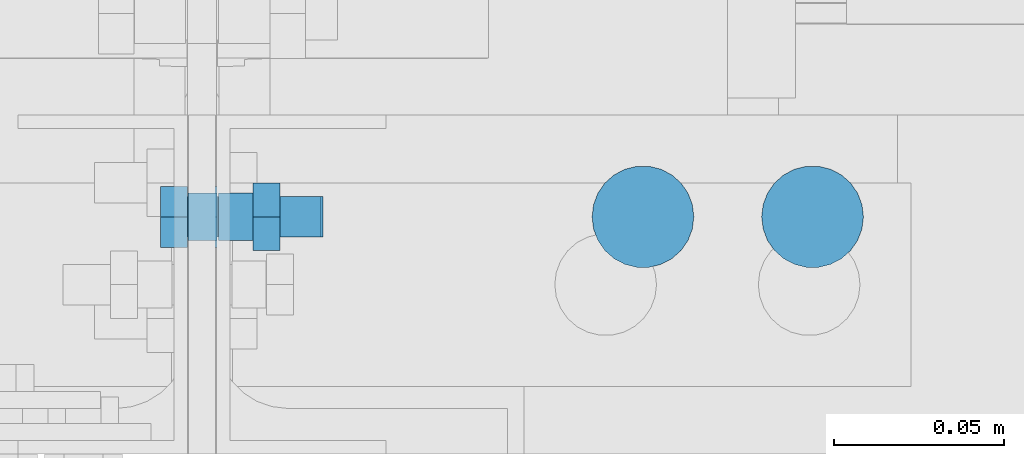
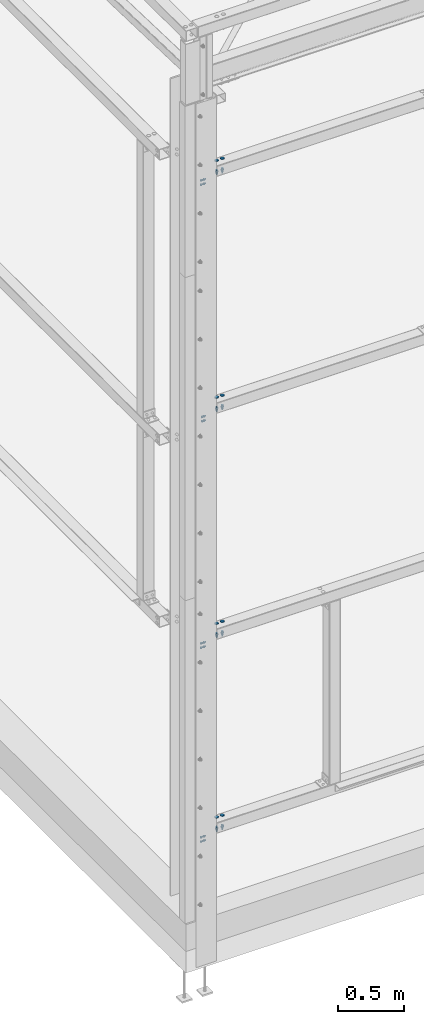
# One storey, part 203 of 362: 12 mechanical fasteners.
"""IFC2X3 building model written with IfcOpenShell, lengths in millimetres."""

from ifc_helpers import new_model, si_unit, frame, frame_2d, origin_with_axes, origin_2d_with_axis, place, context, subcontext, project, spatial, polyline, circle_curve, parameter, trimmed, segment, composite_curve, circle, outline, extrude, source, transform, mapped, material, type_object, element, save


model = new_model("IFC2X3")

# Units and contexts
model_context = context("Model", 3, precision=1e-05, world=origin_with_axes())
body_context = subcontext(model_context, "Body", "Model", "MODEL_VIEW")
ifc_project = project(units=[si_unit("LENGTHUNIT", "METRE", prefix="MILLI"), si_unit("AREAUNIT", "SQUARE_METRE"), si_unit("VOLUMEUNIT", "CUBIC_METRE"), si_unit("MASSUNIT", "GRAM", prefix="KILO"), si_unit("TIMEUNIT", "SECOND"), si_unit("PLANEANGLEUNIT", "RADIAN"), si_unit("SOLIDANGLEUNIT", "STERADIAN"), si_unit("THERMODYNAMICTEMPERATUREUNIT", "DEGREE_CELSIUS"), si_unit("LUMINOUSINTENSITYUNIT", "LUMEN")], contexts=[model_context])

# Site, building, storey
site_placement = place(None, origin_with_axes())
site = spatial("IfcSite", under=ifc_project, at=site_placement, Name="Undefined", CompositionType="ELEMENT")
building_placement = place(site_placement, origin_with_axes())
building = spatial("IfcBuilding", under=site, at=building_placement, Name="Undefined", CompositionType="ELEMENT")
storey_placement = place(building_placement, origin_with_axes())
storey = spatial("IfcBuildingStorey", under=building, at=storey_placement, Name="Undefined", CompositionType="ELEMENT", Elevation=0.0)

# Mechanical fasteners
ifc_material_1 = material(Name="6.8")
mechanical_fastener_type = type_object("IfcMechanicalFastenerType", Name="Bolt assembly")
shared_shape_1 = source(origin_with_axes(), body_context, "Body", "SweptSolid", [
    extrude(circle(Radius=15.0, at=origin_2d_with_axis()), frame((0.0, 0.0, 0.0), z_axis=(0.0, 1.0, 0.0), x_axis=(1.0, 0.0, 0.0)), (0.0, 0.0, 1.0), 4.1),
])
for number, where, z_axis, x_axis, name in (
    (1, (180.000002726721, -110.000005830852, 1100.0), (0.0, -1.0, 0.0), (-1.0, 0.0, 0.0), "Bolt assembly"),
    (2, (180.000002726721, -110.000005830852, 2900.0), (0.0, -1.0, 0.0), (-1.0, 0.0, 0.0), "Bolt assembly"),
    (3, (180.000002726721, -110.000005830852, 5000.0), (0.0, -1.0, 0.0), (-1.0, 0.0, 0.0), "Bolt assembly"),
    (4, (180.000002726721, -110.000005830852, 7200.0), (0.0, -1.0, 0.0), (-1.0, 0.0, 0.0), "Bolt assembly"),
):
    element("IfcMechanicalFastener", number, at=place(storey_placement, frame(where, z_axis=z_axis, x_axis=x_axis)), inside=storey, type_object=mechanical_fastener_type, material=ifc_material_1, Name=name, NominalDiameter=30.0, NominalLength=4.0, context=body_context, shape_type="MappedRepresentation", body=[
        mapped(shared_shape_1, transform((0.0, 0.0, 0.0))),
        mapped(shared_shape_1, transform((49.9999999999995, 0.0, -3.63797880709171e-12))),
    ])
ifc_material_2 = material(Name="8.8-SB-ZINGUE")
shared_shape_2 = source(origin_with_axes(), body_context, "Body", "SweptSolid", [
    extrude(circle(Radius=7.0, at=origin_2d_with_axis()), frame((0.0, -4.20000548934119, 0.0), z_axis=(0.0, 1.0, 0.0), x_axis=(1.0, 0.0, 0.0)), (0.0, 0.0, 1.0), 8.6),
    extrude(circle(Radius=7.0, at=origin_2d_with_axis()), frame((0.0, 4.9000000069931, 0.0), z_axis=(0.0, 1.0, 0.0), x_axis=(1.0, 0.0, 0.0)), (0.0, 0.0, 1.0), 10.1),
    extrude(outline(polyline([(10.39230484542, 0.0), (5.19615242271, 9.00000000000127), (-5.19615242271, 9.00000000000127), (-10.39230484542, 0.0), (-5.19615242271, -9.00000000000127), (5.19615242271, -9.00000000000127), (10.39230484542, 0.0)])), frame((0.0, -12.2200054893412, 0.0), z_axis=(0.0, 1.0, 0.0), x_axis=(1.0, 0.0, 0.0)), (0.0, 0.0, 1.0), 7.92),
    extrude(circle(Radius=6.0, at=origin_2d_with_axis()), frame((0.0, -4.3000001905, 0.0), z_axis=(0.0, 1.0, 0.0), x_axis=(1.0, 0.0, 0.0)), (0.0, 0.0, 1.0), 40.0),
    extrude(outline(polyline([(11.5008173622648, 0.0), (5.7504086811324, 9.96000000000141), (-5.7504086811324, 9.96000000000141), (-11.5008173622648, 0.0), (-5.7504086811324, -9.96000000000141), (5.7504086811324, -9.96000000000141), (11.5008173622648, 0.0)])), frame((0.0, 15.0000000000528, 0.0), z_axis=(0.0, 1.0, 0.0), x_axis=(1.0, 0.0, 0.0)), (0.0, 0.0, 1.0), 7.92),
])
for number, where, z_axis, x_axis, name in (
    (5, (5.29884118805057e-06, -110.000007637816, 920.0), (0.0, 1.0, 0.0), (0.0, 0.0, 1.0), "Bolt assembly"),
    (6, (5.29884118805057e-06, -110.000007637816, 2720.0), (0.0, 1.0, 0.0), (0.0, 0.0, 1.0), "Bolt assembly"),
    (7, (5.29884118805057e-06, -110.000007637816, 7020.0), (0.0, 1.0, 0.0), (0.0, 0.0, 1.0), "Bolt assembly"),
):
    element("IfcMechanicalFastener", number, at=place(storey_placement, frame(where, z_axis=z_axis, x_axis=x_axis)), inside=storey, type_object=mechanical_fastener_type, material=ifc_material_2, Name=name, NominalDiameter=12.0, NominalLength=40.0, context=body_context, shape_type="MappedRepresentation", body=[
        mapped(shared_shape_2, transform((0.0, 0.0, 0.0))),
        mapped(shared_shape_2, transform((40.0, 0.0, 0.0))),
    ])
shared_shape_3 = source(origin_with_axes(), body_context, "Body", "SweptSolid", [
    extrude(circle(Radius=7.0, at=origin_2d_with_axis()), frame((0.0, -3.89999843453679, 0.0), z_axis=(0.0, 1.0, 0.0), x_axis=(1.0, 0.0, 0.0)), (0.0, 0.0, 1.0), 4.0),
    extrude(outline(composite_curve([segment(polyline([(-7.0, 7.0), (7.0, 7.0)]), True, "CONTINUOUS"), segment(trimmed(circle_curve(frame_2d((7.0, 0.0), x_axis=(0.0, 1.0)), 7.0), [parameter(0.0)], [parameter(3.14159265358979)], False, "PARAMETER"), True, "CONTINUOUS"), segment(polyline([(7.0, -7.0), (-7.0, -7.0)]), True, "CONTINUOUS"), segment(trimmed(circle_curve(frame_2d((-7.0, 0.0), x_axis=(0.0, -1.0)), 7.0), [parameter(0.0)], [parameter(3.14159265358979)], False, "PARAMETER"), True, "DISCONTINUOUS")], self_intersect=False)), frame((0.0, -0.100011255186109, 0.0), z_axis=(0.0, 1.0, 0.0), x_axis=(1.0, 0.0, 0.0)), (0.0, 0.0, 1.0), 10.1),
    extrude(outline(polyline([(10.39230484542, 0.0), (5.19615242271, 9.00000000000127), (-5.19615242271, 9.00000000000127), (-10.39230484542, 0.0), (-5.19615242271, -9.00000000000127), (5.19615242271, -9.00000000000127), (10.39230484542, 0.0)])), frame((0.0, -11.9199984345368, 0.0), z_axis=(0.0, 1.0, 0.0), x_axis=(1.0, 0.0, 0.0)), (0.0, 0.0, 1.0), 7.92),
    extrude(circle(Radius=6.0, at=origin_2d_with_axis()), frame((0.0, -3.99999923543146, 0.0), z_axis=(0.0, 1.0, 0.0), x_axis=(1.0, 0.0, 0.0)), (0.0, 0.0, 1.0), 40.0),
    extrude(circle(Radius=10.8, at=origin_2d_with_axis()), frame((0.0, 10.0000000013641, 0.0), z_axis=(0.0, 1.0, 0.0), x_axis=(1.0, 0.0, 0.0)), (0.0, 0.0, 1.0), 3.96),
    extrude(outline(polyline([(11.5008173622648, 0.0), (5.7504086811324, 9.96000000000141), (-5.7504086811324, 9.96000000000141), (-11.5008173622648, 0.0), (-5.7504086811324, -9.96000000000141), (5.7504086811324, -9.96000000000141), (11.5008173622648, 0.0)])), frame((0.0, 13.96, 0.0), z_axis=(0.0, 1.0, 0.0), x_axis=(1.0, 0.0, 0.0)), (0.0, 0.0, 1.0), 7.92),
])
mechanical_fastener_1_placement = place(storey_placement, frame((180.000002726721, -110.000005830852, 1000.0), z_axis=(0.0, -1.0, 0.0), x_axis=(-1.0, 0.0, 0.0)))
element("IfcMechanicalFastener", 8, at=mechanical_fastener_1_placement, inside=storey, type_object=mechanical_fastener_type, material=ifc_material_2, Name="Bolt assembly", NominalDiameter=12.0, NominalLength=40.0, context=body_context, shape_type="MappedRepresentation", body=[
    mapped(shared_shape_3, transform((0.0, 0.0, 0.0))),
    mapped(shared_shape_3, transform((49.9999999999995, 0.0, -3.63797880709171e-12))),
])
shared_shape_4 = source(origin_with_axes(), body_context, "Body", "SweptSolid", [
    extrude(circle(Radius=7.0, at=origin_2d_with_axis()), frame((0.0, -3.89999843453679, 0.0), z_axis=(0.0, 1.0, 0.0), x_axis=(1.0, 0.0, 0.0)), (0.0, 0.0, 1.0), 4.0),
    extrude(outline(composite_curve([segment(polyline([(-7.0, 7.0), (7.0, 7.0)]), True, "CONTINUOUS"), segment(trimmed(circle_curve(frame_2d((7.0, 0.0), x_axis=(0.0, 1.0)), 7.0), [parameter(0.0)], [parameter(3.14159265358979)], False, "PARAMETER"), True, "CONTINUOUS"), segment(polyline([(7.0, -7.0), (-7.0, -7.0)]), True, "CONTINUOUS"), segment(trimmed(circle_curve(frame_2d((-7.0, 0.0), x_axis=(0.0, -1.0)), 7.0), [parameter(0.0)], [parameter(3.14159265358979)], False, "PARAMETER"), True, "DISCONTINUOUS")], self_intersect=False)), frame((0.0, -0.100011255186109, 0.0), z_axis=(0.0, 1.0, 0.0), x_axis=(1.0, 0.0, 0.0)), (0.0, 0.0, 1.0), 10.1),
    extrude(outline(polyline([(10.39230484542, 0.0), (5.19615242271, 9.00000000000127), (-5.19615242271, 9.00000000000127), (-10.39230484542, 0.0), (-5.19615242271, -9.00000000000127), (5.19615242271, -9.00000000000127), (10.39230484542, 0.0)])), frame((0.0, -11.9199984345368, 0.0), z_axis=(0.0, 1.0, 0.0), x_axis=(1.0, 0.0, 0.0)), (0.0, 0.0, 1.0), 7.92),
    extrude(circle(Radius=6.0, at=origin_2d_with_axis()), frame((0.0, -3.99999923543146, 0.0), z_axis=(0.0, 1.0, 0.0), x_axis=(1.0, 0.0, 0.0)), (0.0, 0.0, 1.0), 40.0),
    extrude(circle(Radius=10.8, at=origin_2d_with_axis()), frame((0.0, 10.0000000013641, 0.0), z_axis=(0.0, 1.0, 0.0), x_axis=(1.0, 0.0, 0.0)), (0.0, 0.0, 1.0), 3.96),
    extrude(outline(polyline([(11.5008173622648, 0.0), (5.7504086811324, 9.96000000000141), (-5.7504086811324, 9.96000000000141), (-11.5008173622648, 0.0), (-5.7504086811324, -9.96000000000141), (5.7504086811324, -9.96000000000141), (11.5008173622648, 0.0)])), frame((0.0, 13.96, 0.0), z_axis=(0.0, 1.0, 0.0), x_axis=(1.0, 0.0, 0.0)), (0.0, 0.0, 1.0), 7.92),
])
mechanical_fastener_2_placement = place(storey_placement, frame((180.000002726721, -110.000005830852, 2800.0), z_axis=(0.0, -1.0, 0.0), x_axis=(-1.0, 0.0, 0.0)))
element("IfcMechanicalFastener", 9, at=mechanical_fastener_2_placement, inside=storey, type_object=mechanical_fastener_type, material=ifc_material_2, Name="Bolt assembly", NominalDiameter=12.0, NominalLength=40.0, context=body_context, shape_type="MappedRepresentation", body=[
    mapped(shared_shape_4, transform((0.0, 0.0, 0.0))),
    mapped(shared_shape_4, transform((49.9999999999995, 0.0, -3.63797880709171e-12))),
])
shared_shape_5 = source(origin_with_axes(), body_context, "Body", "SweptSolid", [
    extrude(circle(Radius=7.0, at=origin_2d_with_axis()), frame((0.0, 5.0, 0.0), z_axis=(0.0, 1.0, 0.0), x_axis=(1.0, 0.0, 0.0)), (0.0, 0.0, 1.0), 10.1),
    extrude(outline(polyline([(10.39230484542, 0.0), (5.19615242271, 9.00000000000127), (-5.19615242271, 9.00000000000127), (-10.39230484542, 0.0), (-5.19615242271, -9.00000000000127), (5.19615242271, -9.00000000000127), (10.39230484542, 0.0)])), frame((0.0, -2.9200025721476, 0.0), z_axis=(0.0, 1.0, 0.0), x_axis=(1.0, 0.0, 0.0)), (0.0, 0.0, 1.0), 7.92),
    extrude(circle(Radius=6.0, at=origin_2d_with_axis()), frame((0.0, 5.0, 0.0), z_axis=(0.0, 1.0, 0.0), x_axis=(1.0, 0.0, 0.0)), (0.0, 0.0, 1.0), 30.0),
    extrude(outline(polyline([(11.5008173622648, 0.0), (5.7504086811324, 9.96000000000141), (-5.7504086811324, 9.96000000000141), (-11.5008173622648, 0.0), (-5.7504086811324, -9.96000000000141), (5.7504086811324, -9.96000000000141), (11.5008173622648, 0.0)])), frame((0.0, 15.0000000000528, 0.0), z_axis=(0.0, 1.0, 0.0), x_axis=(1.0, 0.0, 0.0)), (0.0, 0.0, 1.0), 7.92),
])
mechanical_fastener_3_placement = place(storey_placement, frame((5.29884118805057e-06, -110.000007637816, 4820.0), z_axis=(0.0, 1.0, 0.0), x_axis=(0.0, 0.0, 1.0)))
element("IfcMechanicalFastener", 10, at=mechanical_fastener_3_placement, inside=storey, type_object=mechanical_fastener_type, material=ifc_material_2, Name="Bolt assembly", NominalDiameter=12.0, NominalLength=30.0, context=body_context, shape_type="MappedRepresentation", body=[
    mapped(shared_shape_5, transform((0.0, 0.0, 0.0))),
    mapped(shared_shape_5, transform((40.0, 0.0, 0.0))),
])
shared_shape_6 = source(origin_with_axes(), body_context, "Body", "SweptSolid", [
    extrude(circle(Radius=7.0, at=origin_2d_with_axis()), frame((0.0, -3.89999843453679, 0.0), z_axis=(0.0, 1.0, 0.0), x_axis=(1.0, 0.0, 0.0)), (0.0, 0.0, 1.0), 4.0),
    extrude(outline(composite_curve([segment(polyline([(-7.0, 7.0), (7.0, 7.0)]), True, "CONTINUOUS"), segment(trimmed(circle_curve(frame_2d((7.0, 0.0), x_axis=(0.0, 1.0)), 7.0), [parameter(0.0)], [parameter(3.14159265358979)], False, "PARAMETER"), True, "CONTINUOUS"), segment(polyline([(7.0, -7.0), (-7.0, -7.0)]), True, "CONTINUOUS"), segment(trimmed(circle_curve(frame_2d((-7.0, 0.0), x_axis=(0.0, -1.0)), 7.0), [parameter(0.0)], [parameter(3.14159265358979)], False, "PARAMETER"), True, "DISCONTINUOUS")], self_intersect=False)), frame((0.0, -0.100011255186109, 0.0), z_axis=(0.0, 1.0, 0.0), x_axis=(1.0, 0.0, 0.0)), (0.0, 0.0, 1.0), 10.1),
    extrude(outline(polyline([(10.39230484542, 0.0), (5.19615242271, 9.00000000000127), (-5.19615242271, 9.00000000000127), (-10.39230484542, 0.0), (-5.19615242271, -9.00000000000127), (5.19615242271, -9.00000000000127), (10.39230484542, 0.0)])), frame((0.0, -11.9199984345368, 0.0), z_axis=(0.0, 1.0, 0.0), x_axis=(1.0, 0.0, 0.0)), (0.0, 0.0, 1.0), 7.92),
    extrude(circle(Radius=6.0, at=origin_2d_with_axis()), frame((0.0, -3.99999923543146, 0.0), z_axis=(0.0, 1.0, 0.0), x_axis=(1.0, 0.0, 0.0)), (0.0, 0.0, 1.0), 40.0),
    extrude(circle(Radius=10.8, at=origin_2d_with_axis()), frame((0.0, 10.0000000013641, 0.0), z_axis=(0.0, 1.0, 0.0), x_axis=(1.0, 0.0, 0.0)), (0.0, 0.0, 1.0), 3.96),
    extrude(outline(polyline([(11.5008173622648, 0.0), (5.7504086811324, 9.96000000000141), (-5.7504086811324, 9.96000000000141), (-11.5008173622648, 0.0), (-5.7504086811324, -9.96000000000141), (5.7504086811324, -9.96000000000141), (11.5008173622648, 0.0)])), frame((0.0, 13.96, 0.0), z_axis=(0.0, 1.0, 0.0), x_axis=(1.0, 0.0, 0.0)), (0.0, 0.0, 1.0), 7.92),
])
mechanical_fastener_4_placement = place(storey_placement, frame((180.000002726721, -110.000005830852, 4900.0), z_axis=(0.0, -1.0, 0.0), x_axis=(-1.0, 0.0, 0.0)))
element("IfcMechanicalFastener", 11, at=mechanical_fastener_4_placement, inside=storey, type_object=mechanical_fastener_type, material=ifc_material_2, Name="Bolt assembly", NominalDiameter=12.0, NominalLength=40.0, context=body_context, shape_type="MappedRepresentation", body=[
    mapped(shared_shape_6, transform((0.0, 0.0, 0.0))),
    mapped(shared_shape_6, transform((49.9999999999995, 0.0, -3.63797880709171e-12))),
])
shared_shape_7 = source(origin_with_axes(), body_context, "Body", "SweptSolid", [
    extrude(circle(Radius=7.0, at=origin_2d_with_axis()), frame((0.0, -3.89999843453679, 0.0), z_axis=(0.0, 1.0, 0.0), x_axis=(1.0, 0.0, 0.0)), (0.0, 0.0, 1.0), 4.0),
    extrude(outline(composite_curve([segment(polyline([(-7.0, 7.0), (7.0, 7.0)]), True, "CONTINUOUS"), segment(trimmed(circle_curve(frame_2d((7.0, 0.0), x_axis=(0.0, 1.0)), 7.0), [parameter(0.0)], [parameter(3.14159265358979)], False, "PARAMETER"), True, "CONTINUOUS"), segment(polyline([(7.0, -7.0), (-7.0, -7.0)]), True, "CONTINUOUS"), segment(trimmed(circle_curve(frame_2d((-7.0, 0.0), x_axis=(0.0, -1.0)), 7.0), [parameter(0.0)], [parameter(3.14159265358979)], False, "PARAMETER"), True, "DISCONTINUOUS")], self_intersect=False)), frame((0.0, -0.100011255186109, 0.0), z_axis=(0.0, 1.0, 0.0), x_axis=(1.0, 0.0, 0.0)), (0.0, 0.0, 1.0), 10.1),
    extrude(outline(polyline([(10.39230484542, 0.0), (5.19615242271, 9.00000000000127), (-5.19615242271, 9.00000000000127), (-10.39230484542, 0.0), (-5.19615242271, -9.00000000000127), (5.19615242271, -9.00000000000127), (10.39230484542, 0.0)])), frame((0.0, -11.9199984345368, 0.0), z_axis=(0.0, 1.0, 0.0), x_axis=(1.0, 0.0, 0.0)), (0.0, 0.0, 1.0), 7.92),
    extrude(circle(Radius=6.0, at=origin_2d_with_axis()), frame((0.0, -3.99999923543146, 0.0), z_axis=(0.0, 1.0, 0.0), x_axis=(1.0, 0.0, 0.0)), (0.0, 0.0, 1.0), 40.0),
    extrude(circle(Radius=10.8, at=origin_2d_with_axis()), frame((0.0, 10.0000000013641, 0.0), z_axis=(0.0, 1.0, 0.0), x_axis=(1.0, 0.0, 0.0)), (0.0, 0.0, 1.0), 3.96),
    extrude(outline(polyline([(11.5008173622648, 0.0), (5.7504086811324, 9.96000000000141), (-5.7504086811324, 9.96000000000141), (-11.5008173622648, 0.0), (-5.7504086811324, -9.96000000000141), (5.7504086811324, -9.96000000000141), (11.5008173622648, 0.0)])), frame((0.0, 13.96, 0.0), z_axis=(0.0, 1.0, 0.0), x_axis=(1.0, 0.0, 0.0)), (0.0, 0.0, 1.0), 7.92),
])
mechanical_fastener_5_placement = place(storey_placement, frame((180.000002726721, -110.000005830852, 7100.0), z_axis=(0.0, -1.0, 0.0), x_axis=(-1.0, 0.0, 0.0)))
element("IfcMechanicalFastener", 12, at=mechanical_fastener_5_placement, inside=storey, type_object=mechanical_fastener_type, material=ifc_material_2, Name="Bolt assembly", NominalDiameter=12.0, NominalLength=40.0, context=body_context, shape_type="MappedRepresentation", body=[
    mapped(shared_shape_7, transform((0.0, 0.0, 0.0))),
    mapped(shared_shape_7, transform((49.9999999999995, 0.0, -3.63797880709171e-12))),
])

save(model, "model.ifc")
